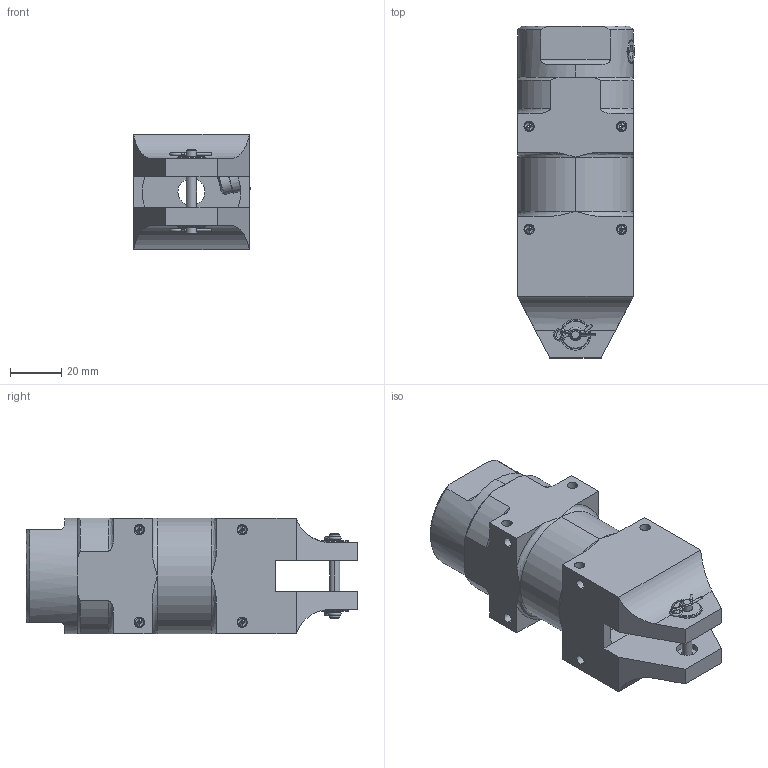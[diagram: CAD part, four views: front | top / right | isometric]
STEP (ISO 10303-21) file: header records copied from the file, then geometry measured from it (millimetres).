
FILE_DESCRIPTION (( 'STEP AP214' ), '1' );
FILE_NAME ('GT-NS20.STEP', '2019-11-28T00:44:20', ( '微软用户' ), ( '微软中国' ), 'SwSTEP 2.0', 'SolidWorks 2016', '' );
FILE_SCHEMA (( 'AUTOMOTIVE_DESIGN' ));
Length unit declared in the file: millimetre
Products named in the file (1): GT-NS20
Bounding box: 45.45 x 129 x 45 mm (x, y, z)
Surface area: 29201.9 mm2 (no closed solid volume)
Topology: 0 solids, 12 shells, 330 faces, 833 edges, 486 vertices
Faces by surface type: cylinder 120, cone 88, plane 86, bspline 34, torus 2
Entity records: 18217 total; most frequent: CARTESIAN_POINT 10427, DIRECTION 1536, ORIENTED_EDGE 1487, EDGE_CURVE 793, AXIS2_PLACEMENT_3D 621, VERTEX_POINT 480, EDGE_LOOP 378, CIRCLE 328
